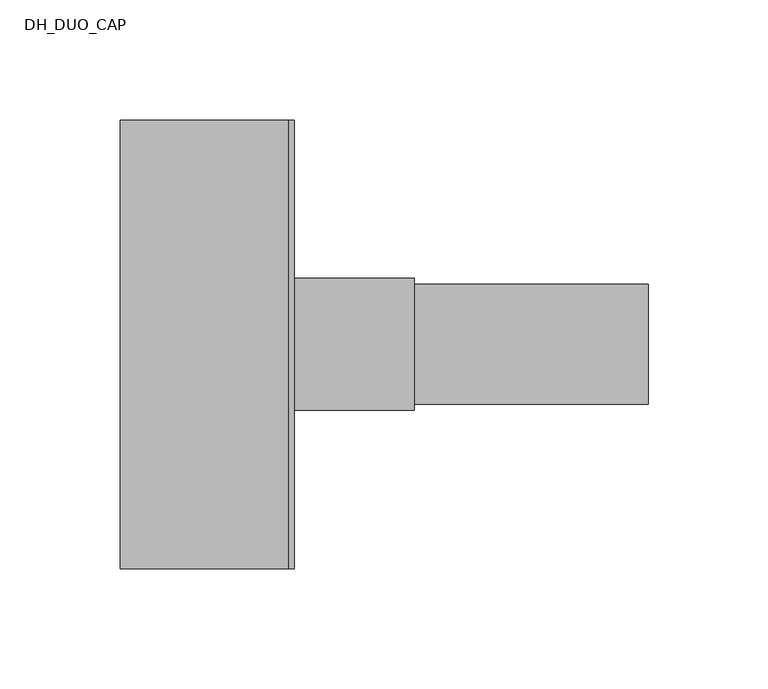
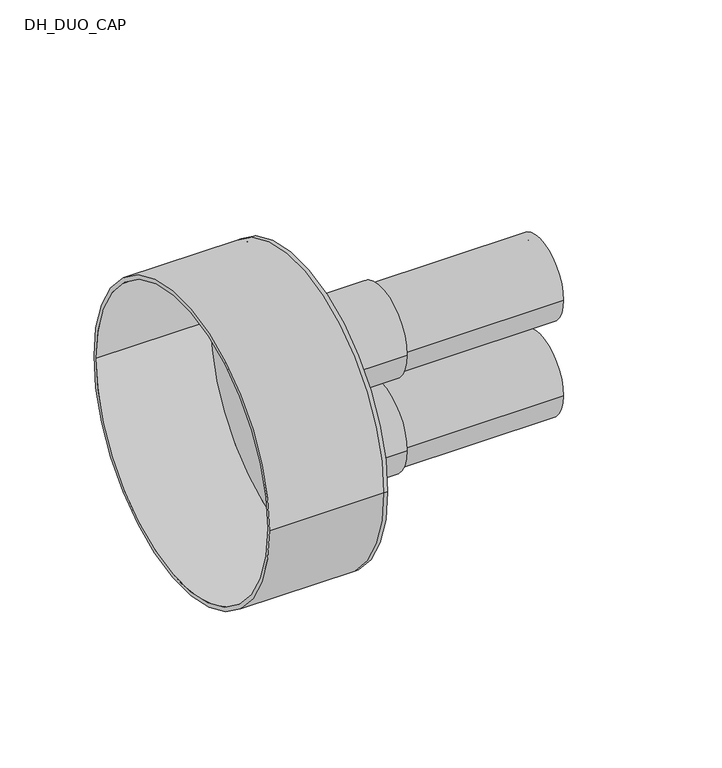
"""IFC4 building model written with IfcOpenShell, lengths in millimetres: pipe fitting geometry, DH_DUO_CAP : RAUTHERMEX DUO + 11 Heating - Rubber Cap."""

from ifc_helpers import new_model, si_unit, point, frame, frame_2d, origin, place, context, project, spatial, polyline, circle_curve, trimmed, segment, composite_curve, outline, extrude, source, transform, mapped, element, save
from ifc_brep_helpers import plane_surface, cylinder_surface, revolved_surface, advanced_brep


def dh_duo_cap_83a6e4d1(model_context):
    return source(origin(), model_context, "Body", "SolidModel", [
        extrude(outline(composite_curve([segment(trimmed(circle_curve(frame_2d((0.0, -31.0)), 25.0), [point((-25.0, -31.0))], [point((25.0, -31.0))], False, "CARTESIAN"), True, "CONTINUOUS"), segment(trimmed(circle_curve(frame_2d((0.0, -31.0)), 25.0), [point((25.0, -31.0))], [point((-25.0, -31.0))], False, "CARTESIAN"), True, "CONTINUOUS")], self_intersect=False), holes=[composite_curve([segment(trimmed(circle_curve(frame_2d((0.0, -31.0)), 20.4), [point((-20.4, -31.0))], [point((20.4, -31.0))], True, "CARTESIAN"), True, "CONTINUOUS"), segment(trimmed(circle_curve(frame_2d((0.0, -31.0)), 20.4), [point((20.4, -31.0))], [point((-20.4, -31.0))], True, "CARTESIAN"), True, "CONTINUOUS")], self_intersect=False)]), frame((0.0, 0.0, 0.0), z_axis=(1.0, 0.0, 0.0), x_axis=(0.0, 1.0, 0.0)), (0.0, 0.0, 1.0), 150.0),
        extrude(outline(composite_curve([segment(trimmed(circle_curve(frame_2d((0.0, 31.0)), 25.0), [point((-25.0, 31.0))], [point((25.0, 31.0))], False, "CARTESIAN"), True, "CONTINUOUS"), segment(trimmed(circle_curve(frame_2d((0.0, 31.0)), 25.0), [point((25.0, 31.0))], [point((-25.0, 31.0))], False, "CARTESIAN"), True, "CONTINUOUS")], self_intersect=False), holes=[composite_curve([segment(trimmed(circle_curve(frame_2d((0.0, 31.0)), 20.4), [point((-20.4, 31.0))], [point((20.4, 31.0))], True, "CARTESIAN"), True, "CONTINUOUS"), segment(trimmed(circle_curve(frame_2d((0.0, 31.0)), 20.4), [point((20.4, 31.0))], [point((-20.4, 31.0))], True, "CARTESIAN"), True, "CONTINUOUS")], self_intersect=False)]), frame((0.0, 0.0, 0.0), z_axis=(1.0, 0.0, 0.0), x_axis=(0.0, 1.0, 0.0)), (0.0, 0.0, 1.0), 150.0),
        advanced_brep(
        [(-70.0, -93.5, 0.0), (-70.0, 93.5, 0.0), (-70.0, -91.0, 0.0), (-70.0, 91.0, 0.0), (0.0, -91.0, 0.0), (0.0, 91.0, 0.0), (0.0, -93.5, 0.0), (0.0, 93.5, 0.0), (0.0, 25.0, 31.0), (0.0, -25.0, 31.0), (0.0, 25.0, -31.0), (0.0, -25.0, -31.0), (2.5, -93.5, 0.0), (2.5, 93.5, 0.0), (2.5, -25.0, 31.0), (2.5, 25.0, 31.0), (2.5, -25.0, -31.0), (2.5, 25.0, -31.0)],
        [
            (0, 1, circle_curve(frame((-70.0, 0.0, 0.0), z_axis=(-1.0, 0.0, 0.0), x_axis=(0.0, 1.0, 0.0)), 93.5)),
            (1, 0, circle_curve(frame((-70.0, 0.0, 0.0), z_axis=(-1.0, 0.0, 0.0), x_axis=(0.0, 1.0, 0.0)), 93.5)),
            (2, 3, circle_curve(frame((-70.0, 0.0, 0.0), z_axis=(1.0, 0.0, 0.0), x_axis=(0.0, 1.0, 0.0)), 91.0)),
            (3, 2, circle_curve(frame((-70.0, 0.0, 0.0), z_axis=(1.0, 0.0, 0.0), x_axis=(0.0, 1.0, 0.0)), 91.0)),
            (2, 4),
            (4, 5, circle_curve(frame((0.0, 0.0, 0.0), z_axis=(1.0, 0.0, 0.0), x_axis=(0.0, 1.0, 0.0)), 91.0)),
            (5, 3),
            (5, 4, circle_curve(frame((0.0, 0.0, 0.0), z_axis=(1.0, 0.0, 0.0), x_axis=(0.0, 1.0, 0.0)), 91.0)),
            (0, 6),
            (6, 7, circle_curve(frame((0.0, 0.0, 0.0), z_axis=(-1.0, 0.0, 0.0), x_axis=(0.0, 1.0, 0.0)), 93.5)),
            (7, 1),
            (7, 6, circle_curve(frame((0.0, 0.0, 0.0), z_axis=(-1.0, 0.0, 0.0), x_axis=(0.0, 1.0, 0.0)), 93.5)),
            (8, 9, circle_curve(frame((0.0, 0.0, 31.0), z_axis=(1.0, 0.0, 0.0), x_axis=(0.0, 1.0, 0.0)), 25.0)),
            (9, 8, circle_curve(frame((0.0, 0.0, 31.0), z_axis=(1.0, 0.0, 0.0), x_axis=(0.0, 1.0, 0.0)), 25.0)),
            (10, 11, circle_curve(frame((0.0, 0.0, -31.0), z_axis=(1.0, 0.0, 0.0), x_axis=(0.0, 1.0, 0.0)), 25.0)),
            (11, 10, circle_curve(frame((0.0, 0.0, -31.0), z_axis=(1.0, 0.0, 0.0), x_axis=(0.0, 1.0, 0.0)), 25.0)),
            (12, 13, circle_curve(frame((2.5, 0.0, 0.0), z_axis=(1.0, 0.0, 0.0), x_axis=(0.0, 1.0, 0.0)), 93.5)),
            (13, 12, circle_curve(frame((2.5, 0.0, 0.0), z_axis=(1.0, 0.0, 0.0), x_axis=(0.0, 1.0, 0.0)), 93.5)),
            (14, 15, circle_curve(frame((2.5, 0.0, 31.0), z_axis=(-1.0, 0.0, 0.0), x_axis=(0.0, 1.0, 0.0)), 25.0)),
            (15, 14, circle_curve(frame((2.5, 0.0, 31.0), z_axis=(-1.0, 0.0, 0.0), x_axis=(0.0, 1.0, 0.0)), 25.0)),
            (16, 17, circle_curve(frame((2.5, 0.0, -31.0), z_axis=(-1.0, 0.0, 0.0), x_axis=(0.0, 1.0, 0.0)), 25.0)),
            (17, 16, circle_curve(frame((2.5, 0.0, -31.0), z_axis=(-1.0, 0.0, 0.0), x_axis=(0.0, 1.0, 0.0)), 25.0)),
            (13, 7),
            (6, 12),
            (8, 15),
            (14, 9),
            (10, 17),
            (16, 11),
        ],
        [
            plane_surface(frame((-70.0, 0.0, 0.0), z_axis=(-1.0, 0.0, 0.0), x_axis=(0.0, 0.0, 1.0))),
            revolved_surface(polyline([(0.0, 91.0, 0.0), (-70.0, 91.0, 0.0)]), (-70.0, 0.0, 0.0), (1.0, 0.0, 0.0)),
            cylinder_surface(frame((-70.0, 0.0, 0.0), z_axis=(-1.0, 0.0, 0.0), x_axis=(0.0, 1.0, 0.0)), 93.5),
            plane_surface(frame((0.0, 0.0, 0.0), z_axis=(-1.0, 0.0, 0.0), x_axis=(0.0, 0.0, 1.0))),
            plane_surface(frame((2.5, 0.0, 0.0), z_axis=(1.0, 0.0, 0.0), x_axis=(0.0, 0.0, 1.0))),
            cylinder_surface(frame((0.0, 0.0, 0.0), z_axis=(-1.0, 0.0, 0.0), x_axis=(0.0, 1.0, 0.0)), 93.5),
            revolved_surface(polyline([(0.0, 25.0, 31.0), (2.5, 25.0, 31.0)]), (0.0, 0.0, 31.0), (-1.0, 0.0, 0.0)),
            revolved_surface(polyline([(0.0, 25.0, -31.0), (2.5, 25.0, -31.0)]), (0.0, 0.0, -31.0), (-1.0, 0.0, 0.0)),
        ],
        [
            (0, [[1, 2], [3, 4]]),
            (1, [[-3, 5, 6, 7]]),
            (1, [[-4, -7, 8, -5]]),
            (2, [[-1, 9, 10, 11]]),
            (2, [[-2, -11, 12, -9]]),
            (3, [[-6, -8], [13, 14], [15, 16]]),
            (4, [[17, 18], [19, 20], [21, 22]]),
            (5, [[-18, 23, -10, 24]]),
            (5, [[-17, -24, -12, -23]]),
            (6, [[25, -19, 26, -13]]),
            (6, [[-25, -14, -26, -20]]),
            (7, [[27, -21, 28, -15]]),
            (7, [[-27, -16, -28, -22]]),
        ],
    ),
        extrude(outline(composite_curve([segment(trimmed(circle_curve(frame_2d((0.0, -31.0)), 27.5), [point((-27.5, -31.0))], [point((27.5, -31.0))], False, "CARTESIAN"), True, "CONTINUOUS"), segment(trimmed(circle_curve(frame_2d((0.0, -31.0)), 27.5), [point((27.5, -31.0))], [point((-27.5, -31.0))], False, "CARTESIAN"), True, "CONTINUOUS")], self_intersect=False), holes=[composite_curve([segment(trimmed(circle_curve(frame_2d((0.0, -31.0)), 25.0), [point((-25.0, -31.0))], [point((25.0, -31.0))], True, "CARTESIAN"), True, "CONTINUOUS"), segment(trimmed(circle_curve(frame_2d((0.0, -31.0)), 25.0), [point((25.0, -31.0))], [point((-25.0, -31.0))], True, "CARTESIAN"), True, "CONTINUOUS")], self_intersect=False)]), frame((2.5, 0.0, 0.0), z_axis=(1.0, 0.0, 0.0), x_axis=(0.0, 1.0, 0.0)), (0.0, 0.0, 1.0), 50.0),
        extrude(outline(composite_curve([segment(trimmed(circle_curve(frame_2d((0.0, 31.0)), 27.5), [point((-27.5, 31.0))], [point((27.5, 31.0))], False, "CARTESIAN"), True, "CONTINUOUS"), segment(trimmed(circle_curve(frame_2d((0.0, 31.0)), 27.5), [point((27.5, 31.0))], [point((-27.5, 31.0))], False, "CARTESIAN"), True, "CONTINUOUS")], self_intersect=False), holes=[composite_curve([segment(trimmed(circle_curve(frame_2d((0.0, 31.0)), 25.0), [point((-25.0, 31.0))], [point((25.0, 31.0))], True, "CARTESIAN"), True, "CONTINUOUS"), segment(trimmed(circle_curve(frame_2d((0.0, 31.0)), 25.0), [point((25.0, 31.0))], [point((-25.0, 31.0))], True, "CARTESIAN"), True, "CONTINUOUS")], self_intersect=False)]), frame((2.5, 0.0, 0.0), z_axis=(1.0, 0.0, 0.0), x_axis=(0.0, 1.0, 0.0)), (0.0, 0.0, 1.0), 50.0),
    ])


if __name__ == "__main__":
    model = new_model("IFC4")
    model_context = context("Model", 3, world=origin())
    ifc_project = project(units=[si_unit("LENGTHUNIT", "METRE", prefix="MILLI")], contexts=[model_context])
    site = spatial("IfcSite", under=ifc_project)
    building = spatial("IfcBuilding", under=site)
    placement = place(None, origin())
    dh_duo_cap_shape = dh_duo_cap_83a6e4d1(model_context)
    element("IfcPipeFitting", 1, ObjectType="DH_DUO_CAP : RAUTHERMEX DUO + 11 Heating - Rubber Cap", at=placement, inside=building, context=model_context, shape_type="MappedRepresentation", body=[
        mapped(dh_duo_cap_shape, transform((0.0, 0.0, 0.0), x_axis=(1.0, 0.0, 0.0), y_axis=(0.0, 1.0, 0.0), z_axis=(0.0, 0.0, 1.0))),
    ])
    save(model, "model.ifc")
